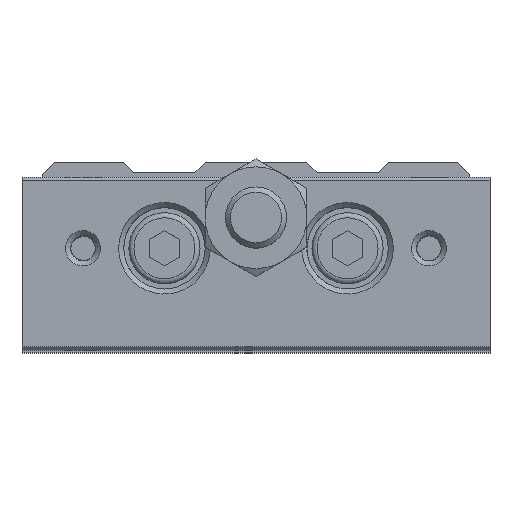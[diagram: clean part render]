
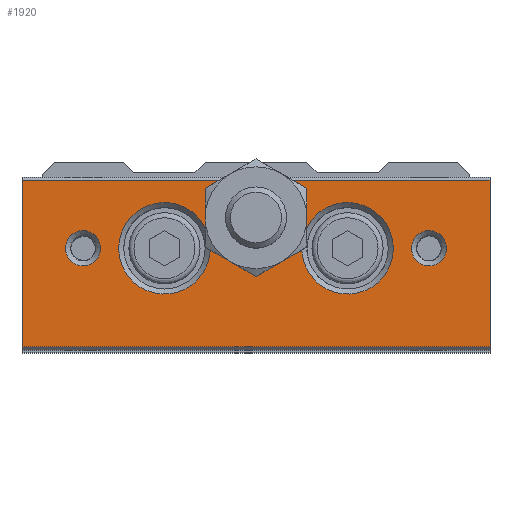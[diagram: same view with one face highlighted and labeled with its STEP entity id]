
A CAD part, top view. The second image highlights one B-rep face of the part: STEP entity #1920.
In plain terms, the highlighted planar face has unit normal (0, 0, 1).
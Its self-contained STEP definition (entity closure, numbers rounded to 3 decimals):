
#1766=CARTESIAN_POINT('',(-15.271,0.,107.));
#1767=VERTEX_POINT('',#1766);
#1768=CARTESIAN_POINT('',(-17.0,0.,107.));
#1769=DIRECTION('',(0.0,0.0,1.0));
#1770=DIRECTION('',(-1.0,0.0,0.0));
#1771=AXIS2_PLACEMENT_3D('',#1768,#1769,#1770);
#1772=CIRCLE('',#1771,1.73);
#1773=EDGE_CURVE('',#1767,#1767,#1772,.T.);
#1778=CARTESIAN_POINT('',(0.0,-10.,107.));
#1779=DIRECTION('',(0.0,0.0,1.0));
#1780=DIRECTION('',(1.0,0.0,0.0));
#1781=AXIS2_PLACEMENT_3D('',#1778,#1779,#1780);
#1782=PLANE('',#1781);
#1783=CARTESIAN_POINT('',(-4.816,1.658,107.));
#1784=VERTEX_POINT('',#1783);
#1785=CARTESIAN_POINT('',(-4.659,1.184,107.));
#1786=VERTEX_POINT('',#1785);
#1787=CARTESIAN_POINT('',(-9.,0.,107.));
#1788=DIRECTION('',(0.0,0.0,1.0));
#1789=DIRECTION('',(-1.0,0.0,0.0));
#1790=AXIS2_PLACEMENT_3D('',#1787,#1788,#1789);
#1791=CIRCLE('',#1790,4.5);
#1792=EDGE_CURVE('',#1784,#1786,#1791,.T.);
#1793=ORIENTED_EDGE('',*,*,#1792,.F.);
#1794=CARTESIAN_POINT('',(-5.0,3.,107.));
#1795=VERTEX_POINT('',#1794);
#1796=CARTESIAN_POINT('',(0.0,3.,107.));
#1797=DIRECTION('',(0.0,0.0,1.0));
#1798=DIRECTION('',(0.0,1.0,0.0));
#1799=AXIS2_PLACEMENT_3D('',#1796,#1797,#1798);
#1800=CIRCLE('',#1799,5.0);
#1801=EDGE_CURVE('',#1795,#1784,#1800,.T.);
#1802=ORIENTED_EDGE('',*,*,#1801,.F.);
#1803=CARTESIAN_POINT('',(-3.363,6.7,107.));
#1804=VERTEX_POINT('',#1803);
#1805=CARTESIAN_POINT('',(0.0,3.,107.));
#1806=DIRECTION('',(0.0,0.0,1.0));
#1807=DIRECTION('',(0.0,1.0,0.0));
#1808=AXIS2_PLACEMENT_3D('',#1805,#1806,#1807);
#1809=CIRCLE('',#1808,5.0);
#1810=EDGE_CURVE('',#1804,#1795,#1809,.T.);
#1811=ORIENTED_EDGE('',*,*,#1810,.F.);
#1812=CARTESIAN_POINT('',(-23.,6.7,107.));
#1813=VERTEX_POINT('',#1812);
#1814=CARTESIAN_POINT('',(-23.,6.7,107.));
#1815=DIRECTION('',(1.0,0.0,0.0));
#1816=VECTOR('',#1815,19.637);
#1817=LINE('',#1814,#1816);
#1818=EDGE_CURVE('',#1813,#1804,#1817,.T.);
#1819=ORIENTED_EDGE('',*,*,#1818,.F.);
#1820=CARTESIAN_POINT('',(-23.,-9.7,107.));
#1821=VERTEX_POINT('',#1820);
#1822=CARTESIAN_POINT('',(-23.,6.7,107.));
#1823=DIRECTION('',(0.0,-1.0,0.0));
#1824=VECTOR('',#1823,16.4);
#1825=LINE('',#1822,#1824);
#1826=EDGE_CURVE('',#1813,#1821,#1825,.T.);
#1827=ORIENTED_EDGE('',*,*,#1826,.T.);
#1828=CARTESIAN_POINT('',(23.,-9.7,107.));
#1829=VERTEX_POINT('',#1828);
#1830=CARTESIAN_POINT('',(23.,-9.7,107.));
#1831=DIRECTION('',(-1.0,0.0,0.0));
#1832=VECTOR('',#1831,46.);
#1833=LINE('',#1830,#1832);
#1834=EDGE_CURVE('',#1829,#1821,#1833,.T.);
#1835=ORIENTED_EDGE('',*,*,#1834,.F.);
#1836=CARTESIAN_POINT('',(23.,6.7,107.));
#1837=VERTEX_POINT('',#1836);
#1838=CARTESIAN_POINT('',(23.,-9.7,107.));
#1839=DIRECTION('',(0.0,1.0,0.0));
#1840=VECTOR('',#1839,16.4);
#1841=LINE('',#1838,#1840);
#1842=EDGE_CURVE('',#1829,#1837,#1841,.T.);
#1843=ORIENTED_EDGE('',*,*,#1842,.T.);
#1844=CARTESIAN_POINT('',(3.363,6.7,107.));
#1845=VERTEX_POINT('',#1844);
#1846=CARTESIAN_POINT('',(3.363,6.7,107.));
#1847=DIRECTION('',(1.0,0.0,0.0));
#1848=VECTOR('',#1847,19.637);
#1849=LINE('',#1846,#1848);
#1850=EDGE_CURVE('',#1845,#1837,#1849,.T.);
#1851=ORIENTED_EDGE('',*,*,#1850,.F.);
#1852=CARTESIAN_POINT('',(5.,3.,107.));
#1853=VERTEX_POINT('',#1852);
#1854=CARTESIAN_POINT('',(0.0,3.,107.));
#1855=DIRECTION('',(0.0,0.0,1.0));
#1856=DIRECTION('',(0.0,1.0,0.0));
#1857=AXIS2_PLACEMENT_3D('',#1854,#1855,#1856);
#1858=CIRCLE('',#1857,5.0);
#1859=EDGE_CURVE('',#1853,#1845,#1858,.T.);
#1860=ORIENTED_EDGE('',*,*,#1859,.F.);
#1861=CARTESIAN_POINT('',(4.816,1.658,107.));
#1862=VERTEX_POINT('',#1861);
#1863=CARTESIAN_POINT('',(0.0,3.,107.));
#1864=DIRECTION('',(0.0,0.0,1.0));
#1865=DIRECTION('',(0.0,1.0,0.0));
#1866=AXIS2_PLACEMENT_3D('',#1863,#1864,#1865);
#1867=CIRCLE('',#1866,5.0);
#1868=EDGE_CURVE('',#1862,#1853,#1867,.T.);
#1869=ORIENTED_EDGE('',*,*,#1868,.F.);
#1870=CARTESIAN_POINT('',(4.659,1.184,107.));
#1871=VERTEX_POINT('',#1870);
#1872=CARTESIAN_POINT('',(9.0,0.,107.));
#1873=DIRECTION('',(0.0,0.0,1.0));
#1874=DIRECTION('',(-1.0,0.0,0.0));
#1875=AXIS2_PLACEMENT_3D('',#1872,#1873,#1874);
#1876=CIRCLE('',#1875,4.5);
#1877=EDGE_CURVE('',#1871,#1862,#1876,.T.);
#1878=ORIENTED_EDGE('',*,*,#1877,.F.);
#1879=CARTESIAN_POINT('',(2.5,-1.33,107.));
#1880=VERTEX_POINT('',#1879);
#1881=CARTESIAN_POINT('',(0.0,3.,107.));
#1882=DIRECTION('',(0.0,0.0,1.0));
#1883=DIRECTION('',(0.0,1.0,0.0));
#1884=AXIS2_PLACEMENT_3D('',#1881,#1882,#1883);
#1885=CIRCLE('',#1884,5.0);
#1886=EDGE_CURVE('',#1880,#1871,#1885,.T.);
#1887=ORIENTED_EDGE('',*,*,#1886,.F.);
#1888=CARTESIAN_POINT('',(-2.5,-1.33,107.));
#1889=VERTEX_POINT('',#1888);
#1890=CARTESIAN_POINT('',(0.0,3.,107.));
#1891=DIRECTION('',(0.0,0.0,1.0));
#1892=DIRECTION('',(0.0,1.0,0.0));
#1893=AXIS2_PLACEMENT_3D('',#1890,#1891,#1892);
#1894=CIRCLE('',#1893,5.0);
#1895=EDGE_CURVE('',#1889,#1880,#1894,.T.);
#1896=ORIENTED_EDGE('',*,*,#1895,.F.);
#1897=CARTESIAN_POINT('',(0.0,3.,107.));
#1898=DIRECTION('',(0.0,0.0,1.0));
#1899=DIRECTION('',(0.0,1.0,0.0));
#1900=AXIS2_PLACEMENT_3D('',#1897,#1898,#1899);
#1901=CIRCLE('',#1900,5.0);
#1902=EDGE_CURVE('',#1786,#1889,#1901,.T.);
#1903=ORIENTED_EDGE('',*,*,#1902,.F.);
#1904=EDGE_LOOP('',(#1793,#1802,#1811,#1819,#1827,#1835,#1843,#1851,#1860,#1869,#1878,#1887,#1896,#1903));
#1905=FACE_OUTER_BOUND('',#1904,.T.);
#1906=CARTESIAN_POINT('',(18.729,0.,107.));
#1907=VERTEX_POINT('',#1906);
#1908=CARTESIAN_POINT('',(17.,0.,107.));
#1909=DIRECTION('',(0.0,0.0,1.0));
#1910=DIRECTION('',(-1.0,0.0,0.0));
#1911=AXIS2_PLACEMENT_3D('',#1908,#1909,#1910);
#1912=CIRCLE('',#1911,1.73);
#1913=EDGE_CURVE('',#1907,#1907,#1912,.T.);
#1914=ORIENTED_EDGE('',*,*,#1913,.F.);
#1915=EDGE_LOOP('',(#1914));
#1916=FACE_BOUND('',#1915,.T.);
#1917=ORIENTED_EDGE('',*,*,#1773,.F.);
#1918=EDGE_LOOP('',(#1917));
#1919=FACE_BOUND('',#1918,.T.);
#1920=ADVANCED_FACE('',(#1905,#1916,#1919),#1782,.T.);
